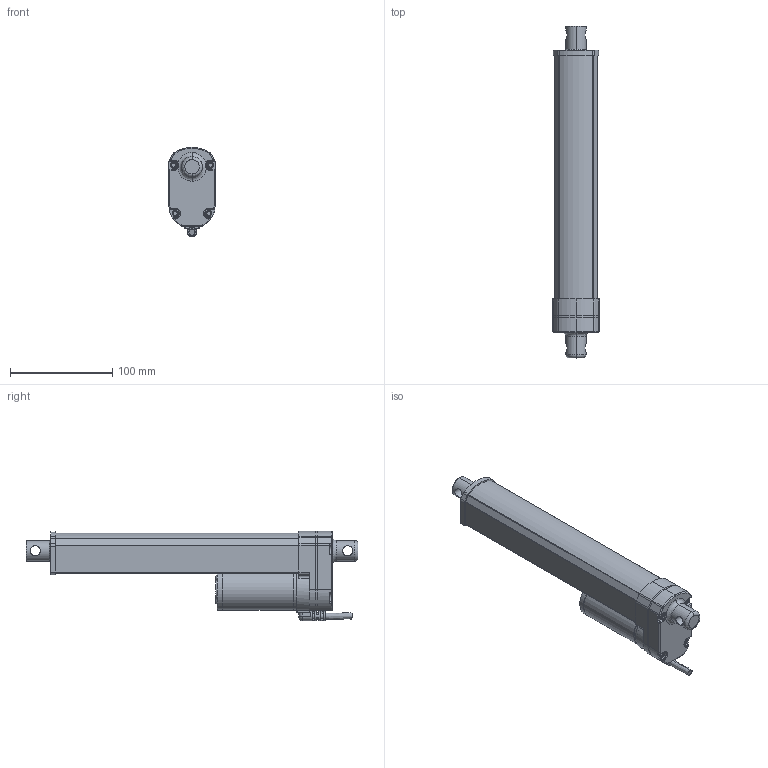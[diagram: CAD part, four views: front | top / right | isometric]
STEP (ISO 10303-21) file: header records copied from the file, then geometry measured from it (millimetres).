
FILE_DESCRIPTION((''),' ');
FILE_NAME('DSZY4-200-std_enc.stp',' ',('R. Lindner'),('MSW GmbH'),' ','ACIS 14.0',' ');
FILE_SCHEMA(('automotive_design'));
Length unit declared in the file: inch
Products named in the file (8): DSZY4-200|NAUO1#«e»\_1;NONE; DSZY4-200|NAUO2#¥~ºÞ_1;¿é¤J1; DSZY4-200|NAUO3#¨¾Â\Àô_1;¿é¤J1; DSZY4-200|NAUO4#26x20x5ªo«Ê_1;¿é¤J1; DSZY4-200|NAUO5#¤ººÞ_1;¿é¤J1; DSZY4-200|NAUO6#­I»\_1;¿é¤J1; DSZY4-200|NAUO7#SR_1;¿é¤J1; DSZY4-200|NAUO8#LD3-80-HS°¨¹F_1;¿é¤J1
Bounding box: 45 x 324 x 87.16 mm (x, y, z)
Volume: 302934.9 mm3; surface area: 136717.8 mm2
Topology: 8 solids, 9 shells, 484 faces, 1270 edges, 821 vertices
Faces by surface type: cylinder 202, plane 200, cone 44, bspline 38
Entity records: 20582 total; most frequent: CARTESIAN_POINT 4419, DIRECTION 2614, ORIENTED_EDGE 2528, EDGE_CURVE 1264, AXIS2_PLACEMENT_3D 984, VERTEX_POINT 821, LINE 646, VECTOR 646
